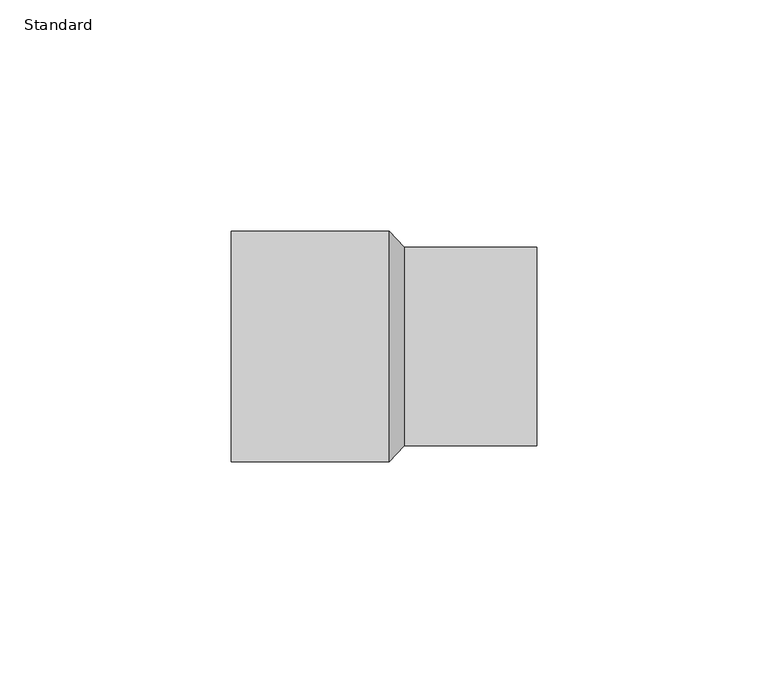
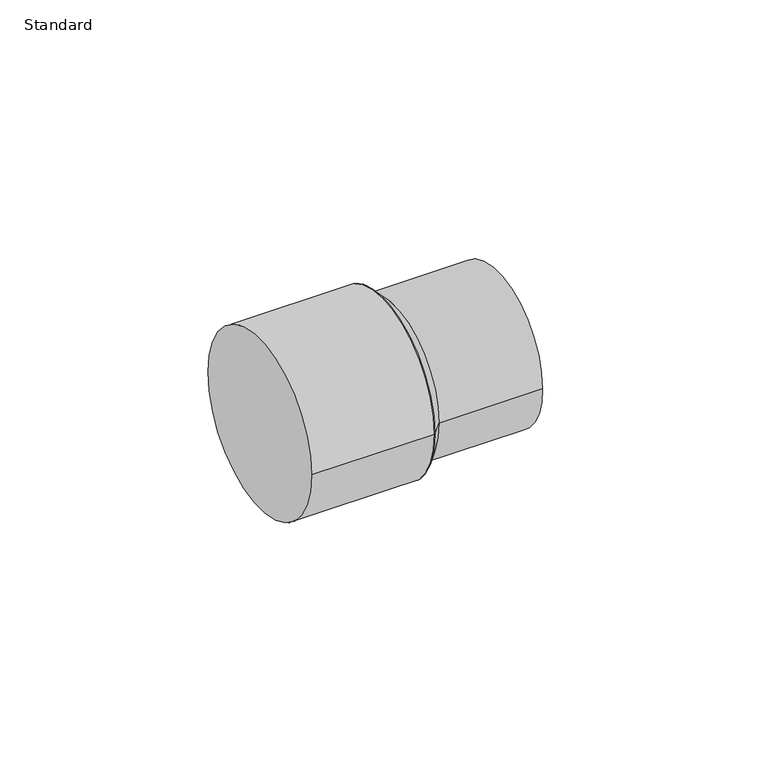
"""IFC4 building model written with IfcOpenShell, lengths in millimetres: pipe fitting geometry, M_Coupling Reducing - CPVC - Sch 40 : Standard."""

from ifc_helpers import new_model, si_unit, point, frame, origin, origin_2d, place, context, project, spatial, polyline, circle_curve, trimmed, segment, composite_curve, outline, extrude, source, transform, mapped, element, save
from ifc_brep_helpers import plane_surface, revolved_surface, advanced_brep


def standard_d0d0b892(model_context):
    return source(origin(), model_context, "Body", "SolidModel", [
        advanced_brep(
        [(37.416875, -21.463, 0.0), (37.416875, 21.463, 0.0), (34.241875, -24.9149219, 0.0), (34.241875, 24.9149219, 0.0)],
        [
            (0, 1, circle_curve(frame((37.416875, 0.0, 0.0), z_axis=(1.0, -4.273914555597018e-12, 0.0), x_axis=(-4.273983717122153e-12, -1.0, 0.0)), 21.463)),
            (1, 0, circle_curve(frame((37.416875, 0.0, 0.0), z_axis=(1.0, -4.273914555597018e-12, 0.0), x_axis=(4.273983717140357e-12, 1.0, 0.0)), 21.463)),
            (2, 3, circle_curve(frame((34.241875, 0.0, 0.0), z_axis=(-1.0, 4.273914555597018e-12, 0.0), x_axis=(4.273983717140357e-12, 1.0, 0.0)), 24.9149219)),
            (3, 2, circle_curve(frame((34.241875, 0.0, 0.0), z_axis=(-1.0, 4.273914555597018e-12, 0.0), x_axis=(-4.273983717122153e-12, -1.0, 0.0)), 24.9149219)),
            (3, 1),
            (0, 2),
        ],
        [
            plane_surface(frame((37.416875, 0.0, 0.0), z_axis=(1.0, 0.0, 0.0), x_axis=(0.0, 0.0, -1.0))),
            plane_surface(frame((34.241875, 0.0, 0.0), z_axis=(-1.0, 0.0, 0.0), x_axis=(0.0, 0.0, -1.0))),
            revolved_surface(polyline([(37.416875, -21.46300001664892, 0.0), (34.24187499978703, -24.914921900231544, 0.0)]), (57.158059, 0.0, 0.0), (-1.0, 4.273914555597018e-12, 0.0)),
            revolved_surface(polyline([(37.41687500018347, 21.463000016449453, 0.0), (34.241875, 24.9149219, 0.0)]), (57.158059, 0.0, 0.0), (-1.0, 4.273914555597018e-12, 0.0)),
        ],
        [
            (0, [[1, 2]]),
            (1, [[3, 4]]),
            (2, [[-4, 5, -1, 6]]),
            (3, [[-3, -6, -2, -5]]),
        ],
    ),
        extrude(outline(composite_curve([segment(trimmed(circle_curve(origin_2d(), 21.463), [point((-21.463, 0.0))], [point((21.463, 0.0))], False, "CARTESIAN"), True, "CONTINUOUS"), segment(trimmed(circle_curve(origin_2d(), 21.463), [point((21.463, 0.0))], [point((-21.463, 0.0))], False, "CARTESIAN"), True, "CONTINUOUS")], self_intersect=False)), frame((37.416875, 0.0, 0.0), z_axis=(1.0, 0.0, 0.0), x_axis=(0.0, 1.0, 0.0)), (0.0, 0.0, 1.0), 28.702),
        extrude(outline(composite_curve([segment(trimmed(circle_curve(origin_2d(), 24.9149219), [point((-24.9149219, 0.0))], [point((24.9149219, 0.0))], False, "CARTESIAN"), True, "CONTINUOUS"), segment(trimmed(circle_curve(origin_2d(), 24.9149219), [point((24.9149219, 0.0))], [point((-24.9149219, 0.0))], False, "CARTESIAN"), True, "CONTINUOUS")], self_intersect=False)), frame((0.0, 0.0, 0.0), z_axis=(1.0, 0.0, 0.0), x_axis=(0.0, 1.0, 0.0)), (0.0, 0.0, 1.0), 34.241875),
    ])


if __name__ == "__main__":
    model = new_model("IFC4")
    model_context = context("Model", 3, world=origin())
    ifc_project = project(units=[si_unit("LENGTHUNIT", "METRE", prefix="MILLI")], contexts=[model_context])
    site = spatial("IfcSite", under=ifc_project)
    building = spatial("IfcBuilding", under=site)
    placement = place(None, origin())
    standard_shape = standard_d0d0b892(model_context)
    element("IfcPipeFitting", 1, ObjectType="M_Coupling Reducing - CPVC - Sch 40 : Standard", at=placement, inside=building, context=model_context, shape_type="MappedRepresentation", body=[
        mapped(standard_shape, transform((0.0, 0.0, 0.0), x_axis=(1.0, 0.0, 0.0), y_axis=(0.0, 1.0, 0.0), z_axis=(0.0, 0.0, 1.0))),
    ])
    save(model, "model.ifc")
